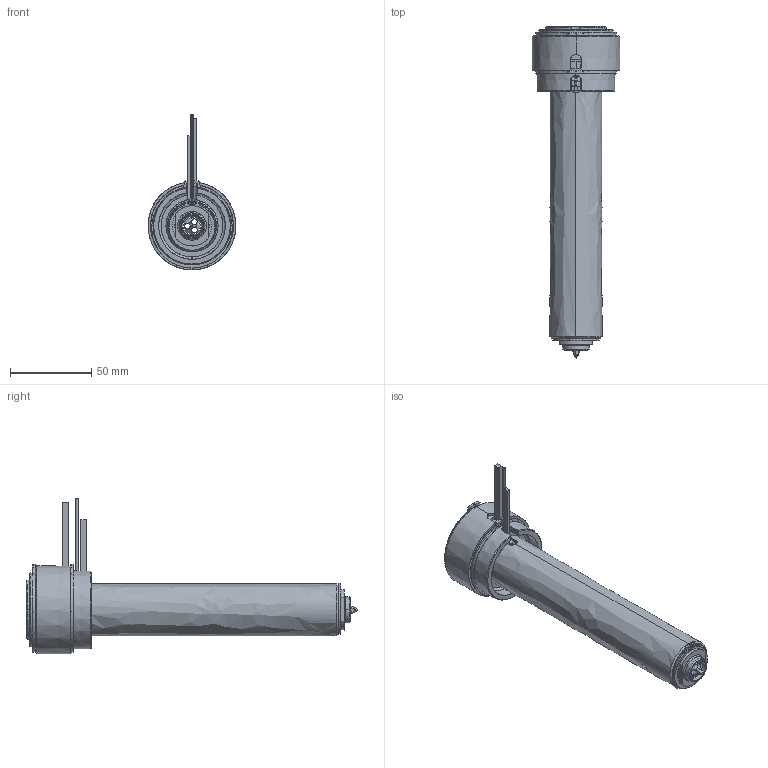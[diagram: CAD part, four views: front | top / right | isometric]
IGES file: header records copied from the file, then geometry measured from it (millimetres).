
Start section: SolidWorks IGES file using analytic representation for surfaces
Global section: file name: C:\Documents and Settings\ws-20\Desktop\TEM\UGEP5504-M-A-0 [Øf-0.80 ØC-13].IGS; native system: SolidWorks 2012; preprocessor: SolidWorks 2012; author: ws-20; date: 120427.081825; units: millimetre
Bounding box: 54 x 204.05 x 95.62 mm (x, y, z)
Surface area: 83778.8 mm2 (no closed solid volume)
Topology: 0 solids, 0 shells, 184 faces, 3660 edges, 3660 vertices
Faces by surface type: revolution 118, bspline 66
